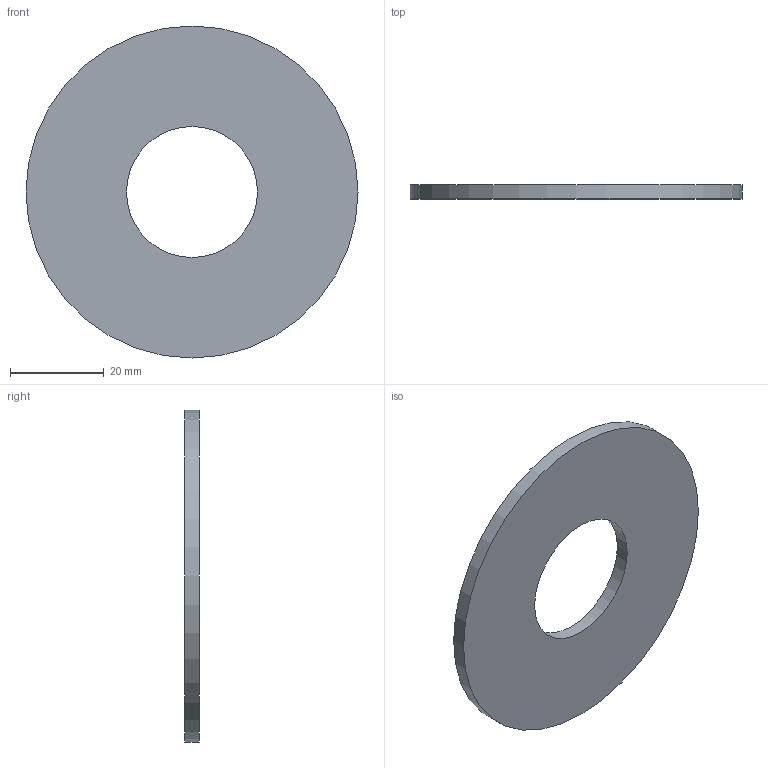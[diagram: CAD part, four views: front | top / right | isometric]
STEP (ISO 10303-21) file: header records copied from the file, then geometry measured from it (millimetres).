
FILE_DESCRIPTION(/* description */ ('Unknown'),/* implementation_level */ '2;1');
FILE_NAME(/* name */ 'GUA.032C',/* time_stamp */ '2021-10-26T12:07:27+02:00',/* author */ ('Unknown'),/* organization */ ('Unknown'),/* preprocessor_version */ 'ST-DEVELOPER v16.7',/* originating_system */ 'Solid Edge',/* authorisation */ 'Unknown');
FILE_SCHEMA (('AUTOMOTIVE_DESIGN {1 0 10303 214 3 1 1}'));
Length unit declared in the file: millimetre
Products named in the file (1): GUA.032C
Bounding box: 71 x 3 x 71 mm (x, y, z)
Volume: 10030.3 mm3; surface area: 7619.9 mm2
Topology: 1 solids, 1 shells, 4 faces, 6 edges, 4 vertices
Faces by surface type: cylinder 2, plane 2
Full cylindrical faces by diameter (mm): 28 x1, 71 x1
Entity records: 118 total; most frequent: DIRECTION 18, CARTESIAN_POINT 13, AXIS2_PLACEMENT_3D 9, ORIENTED_EDGE 8, EDGE_LOOP 8, FACE_BOUND 8, EDGE_CURVE 4, VERTEX_POINT 4
